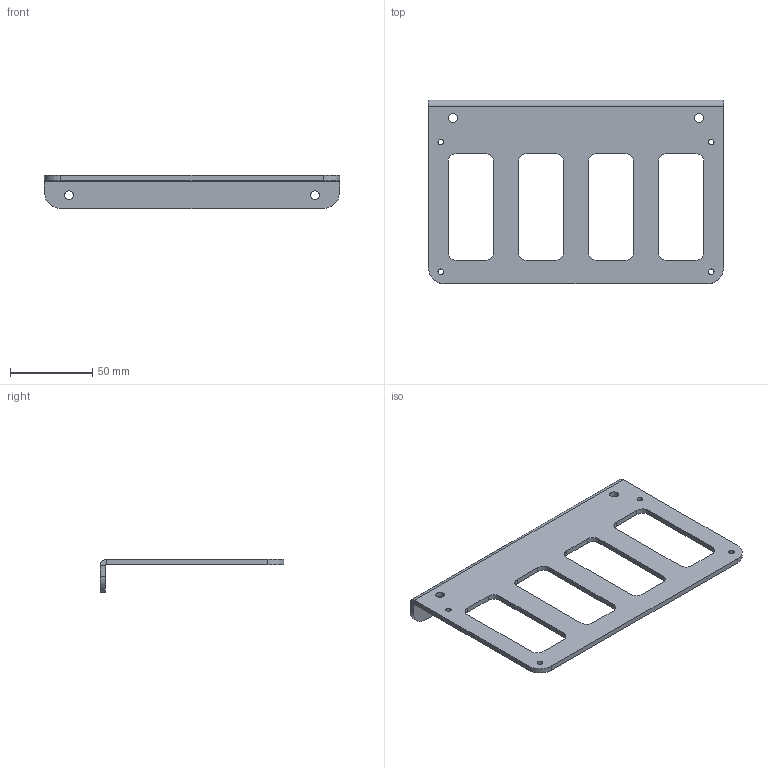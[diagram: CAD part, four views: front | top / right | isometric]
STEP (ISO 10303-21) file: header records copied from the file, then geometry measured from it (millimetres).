
FILE_DESCRIPTION (( 'STEP AP214' ), '1' );
FILE_NAME ('6688.STEP', '2018-03-26T13:56:32', ( 'EMI' ), ( 'Microsoft' ), 'SwSTEP 2.0', 'SolidWorks 2017', '' );
FILE_SCHEMA (( 'AUTOMOTIVE_DESIGN' ));
Length unit declared in the file: millimetre
Products named in the file (1): 6688
Bounding box: 180 x 112.17 x 20.18 mm (x, y, z)
Volume: 49950.8 mm3; surface area: 35957.4 mm2
Topology: 1 solids, 1 shells, 66 faces, 184 edges, 120 vertices
Faces by surface type: cylinder 38, plane 28
Entity records: 2266 total; most frequent: DIRECTION 394, CARTESIAN_POINT 371, ORIENTED_EDGE 368, EDGE_CURVE 184, AXIS2_PLACEMENT_3D 143, VERTEX_POINT 120, VECTOR 108, LINE 108
